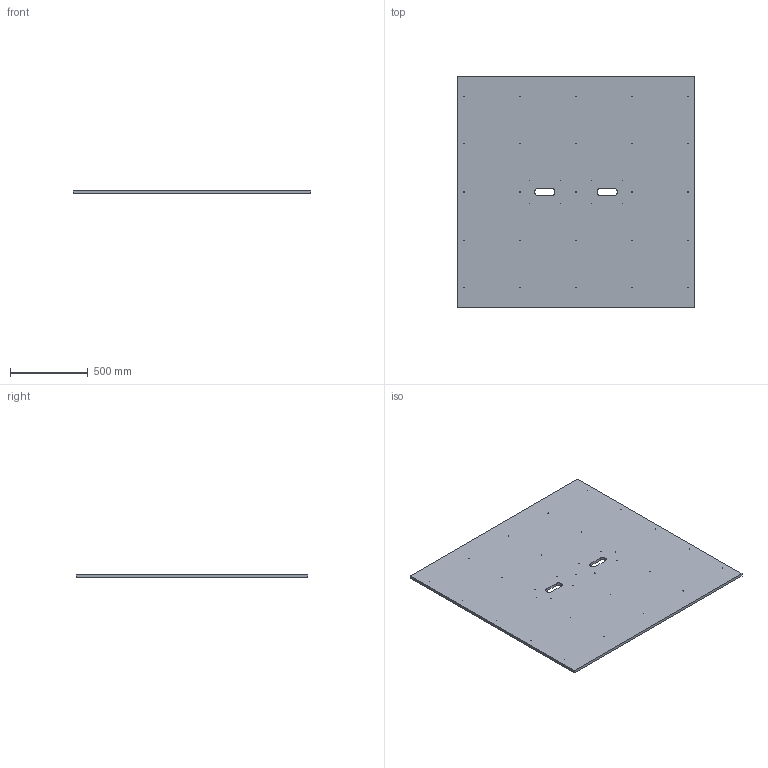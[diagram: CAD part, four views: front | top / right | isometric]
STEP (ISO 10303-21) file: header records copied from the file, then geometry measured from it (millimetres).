
FILE_DESCRIPTION(('Open CASCADE Model'),'2;1');
FILE_NAME('Open CASCADE Shape Model','2026-09-28T10:14:07',('Author'),( 'Open CASCADE'),'Open CASCADE STEP processor 7.9','Open CASCADE 7.9' ,'Unknown');
FILE_SCHEMA(('AUTOMOTIVE_DESIGN { 1 0 10303 214 1 1 1 1 }'));
Length unit declared in the file: millimetre
Products named in the file (1): Open CASCADE STEP translator 7.9 18
Bounding box: 1525 x 1489 x 18 mm (x, y, z)
Volume: 40675178.7 mm3; surface area: 4643842.9 mm2
Topology: 1 solids, 1 shells, 47 faces, 135 edges, 90 vertices
Faces by surface type: cylinder 37, plane 10
Full cylindrical faces by diameter (mm): 2.5 x33
Entity records: 3488 total; most frequent: DIRECTION 575, CARTESIAN_POINT 543, ORIENTED_EDGE 270, PCURVE 270, DEFINITIONAL_REPRESENTATION 270, LINE 257, VECTOR 257, CIRCLE 148
